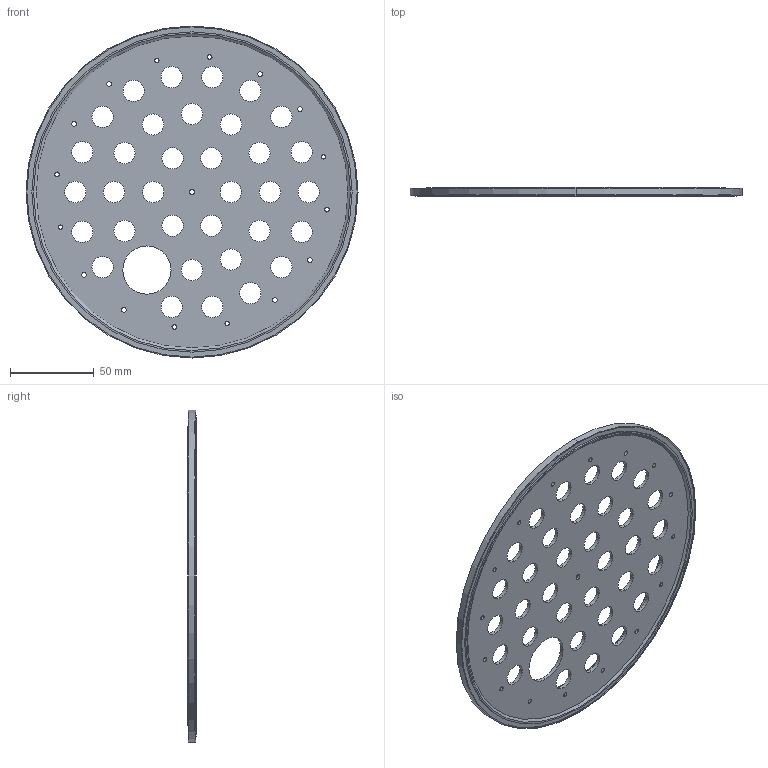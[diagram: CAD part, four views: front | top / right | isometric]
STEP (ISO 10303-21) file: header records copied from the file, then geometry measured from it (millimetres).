
FILE_DESCRIPTION (( 'STEP AP214' ), '1' );
FILE_NAME ('ïåðôîðèðîâàííàÿ ïëàñòèíà.STEP', '2026-03-23T11:45:46', ( '' ), ( '' ), 'SwSTEP 2.0', 'SolidWorks 2022', '' );
FILE_SCHEMA (( 'AUTOMOTIVE_DESIGN' ));
Length unit declared in the file: millimetre
Products named in the file (1): перфорированная пластина
Bounding box: 198.5 x 5.2 x 198.5 mm (x, y, z)
Volume: 78495.7 mm3; surface area: 61456.9 mm2
Topology: 1 solids, 1 shells, 167 faces, 441 edges, 282 vertices
Faces by surface type: cylinder 118, cone 38, plane 11
Entity records: 5879 total; most frequent: DIRECTION 1055, CARTESIAN_POINT 891, ORIENTED_EDGE 882, AXIS2_PLACEMENT_3D 446, EDGE_CURVE 441, VERTEX_POINT 282, CIRCLE 278, EDGE_LOOP 277
